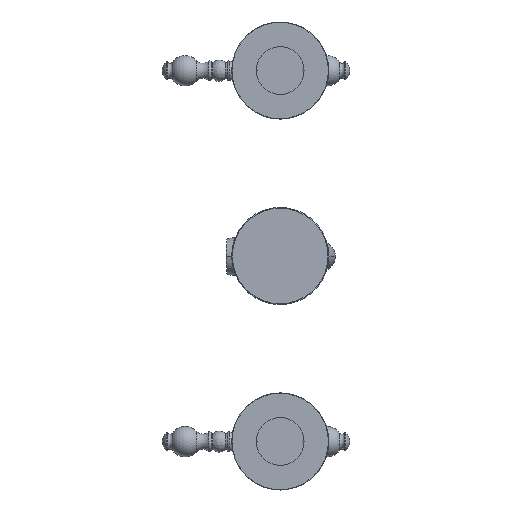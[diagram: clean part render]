
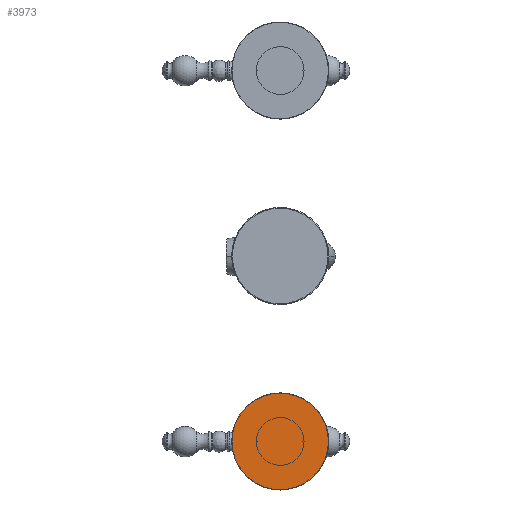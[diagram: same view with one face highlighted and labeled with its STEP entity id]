
A CAD part, top view. The second image highlights one B-rep face of the part: STEP entity #3973.
In plain terms, the highlighted planar face has unit normal (0, 0, 1).
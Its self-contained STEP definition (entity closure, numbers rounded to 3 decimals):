
#2534=CARTESIAN_POINT('',(0.,-114.,-25.));
#2535=DIRECTION('',(0.,0.,1.));
#2536=DIRECTION('',(-1.,0.,0.));
#2537=AXIS2_PLACEMENT_3D('',#2534,#2535,#2536);
#2539=CARTESIAN_POINT('',(0.,-114.,-25.));
#2540=DIRECTION('',(0.,0.,1.));
#2541=DIRECTION('',(1.,0.,0.));
#2542=AXIS2_PLACEMENT_3D('',#2539,#2540,#2541);
#2813=CARTESIAN_POINT('',(-29.65,-114.,-25.));
#2814=CARTESIAN_POINT('',(29.65,-114.,-25.));
#2815=VERTEX_POINT('',#2813);
#2816=VERTEX_POINT('',#2814);
#3963=CARTESIAN_POINT('',(0.,0.,-25.));
#3964=DIRECTION('',(0.,0.,-1.));
#3965=DIRECTION('',(0.,1.,0.));
#3966=AXIS2_PLACEMENT_3D('',#3963,#3964,#3965);
#3967=PLANE('',#3966);
#3968=ORIENTED_EDGE('',*,*,#3953,.F.);
#3970=ORIENTED_EDGE('',*,*,#3969,.F.);
#3971=EDGE_LOOP('',(#3968,#3970));
#3972=FACE_OUTER_BOUND('',#3971,.F.);
#3973=ADVANCED_FACE('',(#3972),#3967,.F.);
#2538=CIRCLE('',#2537,29.65);
#2543=CIRCLE('',#2542,29.65);
#3953=EDGE_CURVE('',#2815,#2816,#2538,.T.);
#3969=EDGE_CURVE('',#2816,#2815,#2543,.T.);
